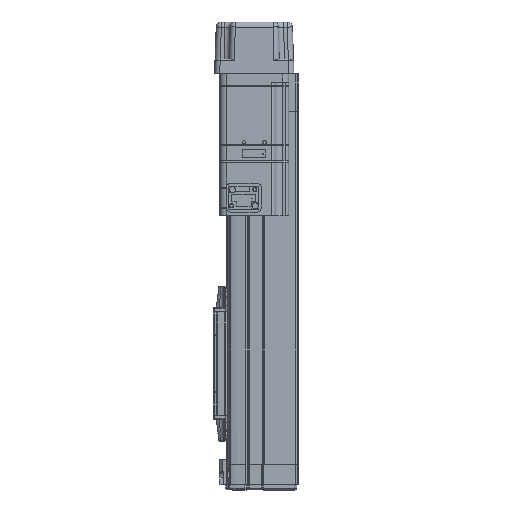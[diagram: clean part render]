
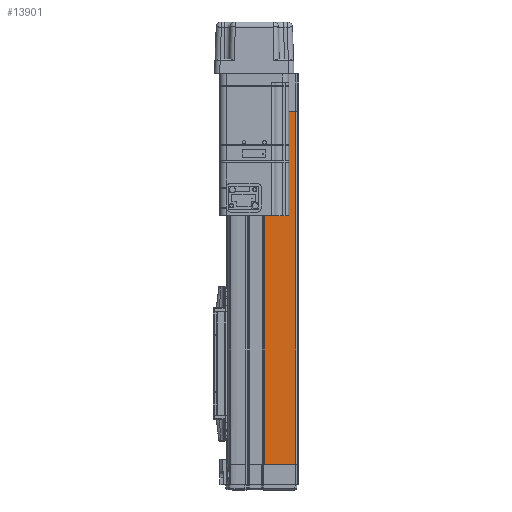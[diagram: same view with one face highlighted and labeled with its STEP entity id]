
A CAD part, left-side view. The second image highlights one B-rep face of the part: STEP entity #13901.
In plain terms, the highlighted planar face has unit normal (-1, 0, 0).
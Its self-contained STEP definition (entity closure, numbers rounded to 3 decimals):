
#2709 = ORIENTED_EDGE ( 'NONE', *, *, #16103, .F. ) ;
#2733 = ORIENTED_EDGE ( 'NONE', *, *, #15975, .F. ) ;
#2771 = ORIENTED_EDGE ( 'NONE', *, *, #16113, .T. ) ;
#2784 = ORIENTED_EDGE ( 'NONE', *, *, #15998, .F. ) ;
#7010 = EDGE_LOOP ( 'NONE', ( #2709, #2771, #2784, #2733 ) ) ;
#9303 = AXIS2_PLACEMENT_3D ( 'NONE', #24772, #24776, #24771 ) ;
#13901 = ADVANCED_FACE ( 'NONE', ( #23947 ), #24777, .T. ) ;
#15975 = EDGE_CURVE ( 'NONE', #46830, #46771, #40960, .T. ) ;
#15998 = EDGE_CURVE ( 'NONE', #46771, #46749, #41062, .T. ) ;
#16103 = EDGE_CURVE ( 'NONE', #46821, #46830, #41184, .T. ) ;
#16113 = EDGE_CURVE ( 'NONE', #46821, #46749, #41187, .T. ) ;
#23947 = FACE_OUTER_BOUND ( 'NONE', #7010, .T. ) ;
#24771 = DIRECTION ( 'NONE',  ( 0., 0., 1. ) ) ;
#24772 = CARTESIAN_POINT ( 'NONE',  ( -22.8, -24., -281.324 ) ) ;
#24776 = DIRECTION ( 'NONE',  ( -1., 0., 0. ) ) ;
#24777 = PLANE ( 'NONE',  #9303 ) ;
#40960 = LINE ( 'NONE', #41850, #40977 ) ;
#40977 = VECTOR ( 'NONE', #41838, 1000. ) ;
#41054 = VECTOR ( 'NONE', #41901, 1000. ) ;
#41062 = LINE ( 'NONE', #41919, #41054 ) ;
#41157 = VECTOR ( 'NONE', #42128, 1000. ) ;
#41182 = VECTOR ( 'NONE', #42102, 1000. ) ;
#41184 = LINE ( 'NONE', #42119, #41182 ) ;
#41187 = LINE ( 'NONE', #42083, #41157 ) ;
#41838 = DIRECTION ( 'NONE',  ( 0., 0., 1. ) ) ;
#41850 = CARTESIAN_POINT ( 'NONE',  ( -22.8, -5.914, -281.324 ) ) ;
#41901 = DIRECTION ( 'NONE',  ( 0., -1., 0. ) ) ;
#41919 = CARTESIAN_POINT ( 'NONE',  ( -22.8, -24., -21.5 ) ) ;
#42083 = CARTESIAN_POINT ( 'NONE',  ( -22.8, -24., -281.324 ) ) ;
#42102 = DIRECTION ( 'NONE',  ( 0., 1., 0. ) ) ;
#42119 = CARTESIAN_POINT ( 'NONE',  ( -22.8, -24., -226.5 ) ) ;
#42128 = DIRECTION ( 'NONE',  ( 0., 0., 1. ) ) ;
#46749 = VERTEX_POINT ( 'NONE', #52597 ) ;
#46771 = VERTEX_POINT ( 'NONE', #52596 ) ;
#46821 = VERTEX_POINT ( 'NONE', #52675 ) ;
#46830 = VERTEX_POINT ( 'NONE', #52680 ) ;
#52596 = CARTESIAN_POINT ( 'NONE',  ( -22.8, -5.914, -21.5 ) ) ;
#52597 = CARTESIAN_POINT ( 'NONE',  ( -22.8, -24., -21.5 ) ) ;
#52675 = CARTESIAN_POINT ( 'NONE',  ( -22.8, -24., -226.5 ) ) ;
#52680 = CARTESIAN_POINT ( 'NONE',  ( -22.8, -5.914, -226.5 ) ) ;
